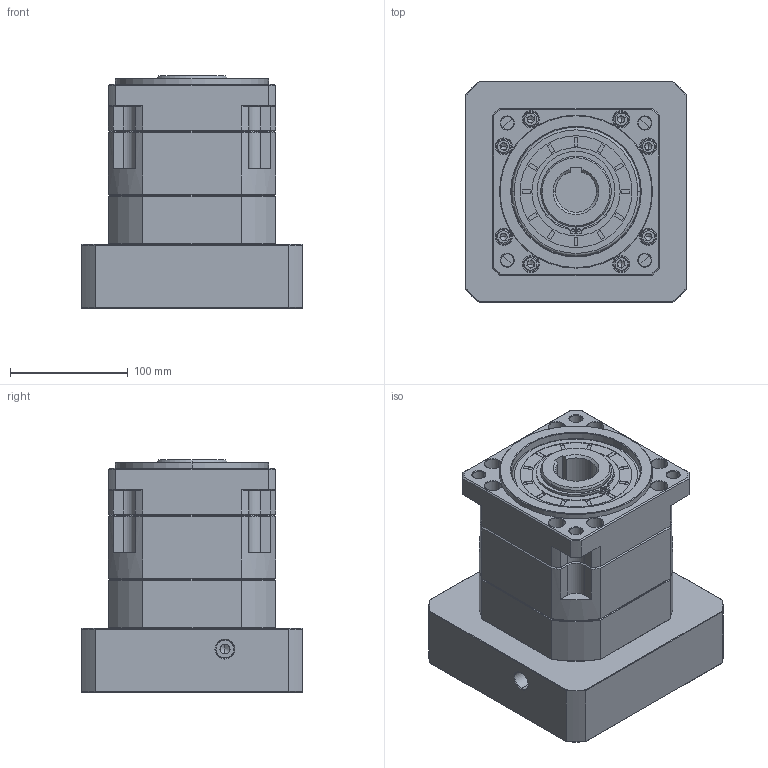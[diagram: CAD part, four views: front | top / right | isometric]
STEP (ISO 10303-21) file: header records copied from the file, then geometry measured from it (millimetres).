
FILE_DESCRIPTION (( 'STEP AP214' ), '1' );
FILE_NAME ('ZB142A-K35-L1-38-180-215-M12.step', '2023-03-17T10:49:20', ( '' ), ( '' ), 'SwSTEP 2.0', 'SolidWorks 2016', '' );
FILE_SCHEMA (( 'AUTOMOTIVE_DESIGN' ));
Length unit declared in the file: millimetre
Products named in the file (1): ZB142A-K35-L1-38-180-215-M12
Bounding box: 188 x 188 x 197.2 mm (x, y, z)
Volume: 3832650.5 mm3; surface area: 326204.6 mm2
Topology: 6 solids, 6 shells, 1965 faces, 5207 edges, 3340 vertices
Faces by surface type: plane 916, cylinder 377, cone 346, bspline 306, torus 20
Entity records: 107151 total; most frequent: CARTESIAN_POINT 39048, ORIENTED_EDGE 10358, DIRECTION 8584, EDGE_CURVE 5179, VERTEX_POINT 3340, LINE 3206, VECTOR 3206, AXIS2_PLACEMENT_3D 2689
